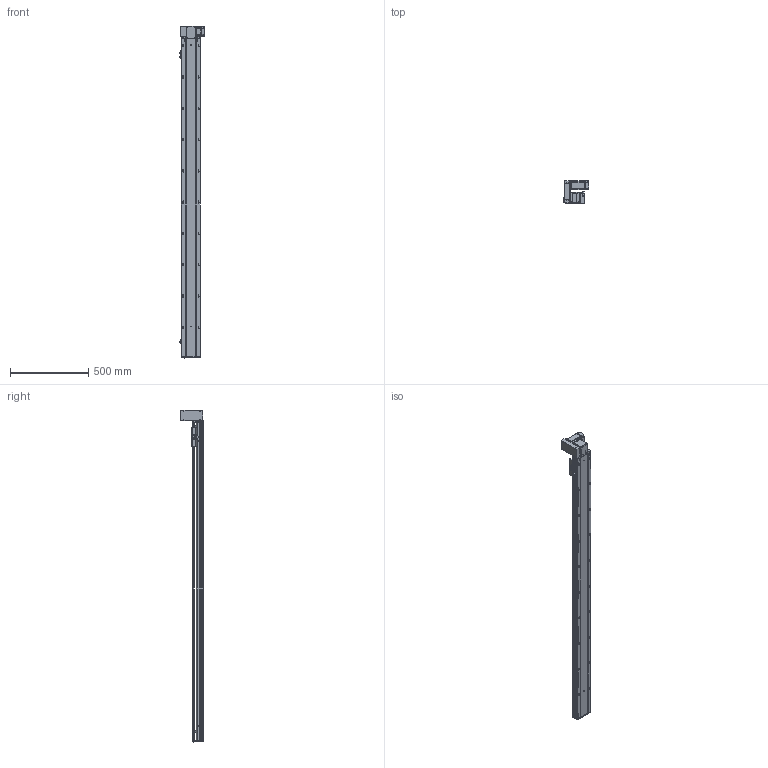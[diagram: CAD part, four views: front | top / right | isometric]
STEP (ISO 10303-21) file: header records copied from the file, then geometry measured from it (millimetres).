
FILE_DESCRIPTION (( 'STEP AP203' ), '1' );
FILE_NAME ('RY120-T-300-UL.SLDASM_1800.step', '2021-03-01T05:37:33', ( '盈信电脑' ), ( '东莞市道滘镇水果街19号' ), 'SwSTEP 2.0', 'SolidWorks 2012', '' );
FILE_SCHEMA (( 'CONFIG_CONTROL_DESIGN' ));
Length unit declared in the file: millimetre
Products named in the file (18): RY120-T-300-UL倰第菁釱_1800; RY120肮祭湍臏賑輸; RY120綴裔啣; RY120-T-300-UL倰第奻裔啣_1800; RY120-T-300-UL.SLDASM_1800; RY120-T萇儂欶; 滅袉蝶18-10; RY120-T翋肮祭謫裔啣; RY120-T蹟翐M4; 15; RY120-T主同步轮轴承压盖; RY120-T萇儂假蚾啣; 侂狟400W侜督萇儂; RY120-T翋肮祭盓傅釱; RY120-T肮祭湍揤踡輸1; RY120外置感应片(140共用）; RY120-T肮祭湍揤踡輸2; 覜茼ん672
Assembly tree (23 placements, depth 3):
  RY120-T-300-UL.SLDASM_1800
    RY120-T-300-UL倰第菁釱_1800
    RY120-T-300-UL倰第奻裔啣_1800
    RY120肮祭湍臏賑輸
    RY120綴裔啣
    覜茼ん672  x3
    RY120外置感应片(140共用）
    RY120-T肮祭湍揤踡輸1
    RY120-T肮祭湍揤踡輸2
    RY120-T翋肮祭盓傅釱
    RY120-T萇儂假蚾啣
    侂狟400W侜督萇儂
      15
    RY120-T主同步轮轴承压盖
    滅袉蝶18-10  x2
    RY120-T萇儂欶
    RY120-T蹟翐M4  x4
    RY120-T翋肮祭謫裔啣
Bounding box: 164.2 x 146 x 2121 mm (x, y, z)
Volume: 5368978.2 mm3; surface area: 2044668.9 mm2
Topology: 23 solids, 23 shells, 3050 faces, 8336 edges, 5314 vertices
Faces by surface type: plane 1442, cylinder 1208, cone 311, bspline 89
Entity records: 97896 total; most frequent: CARTESIAN_POINT 25374, ORIENTED_EDGE 14984, DIRECTION 14162, EDGE_CURVE 7492, VERTEX_POINT 4901, AXIS2_PLACEMENT_3D 4801, VECTOR 4560, LINE 4560
